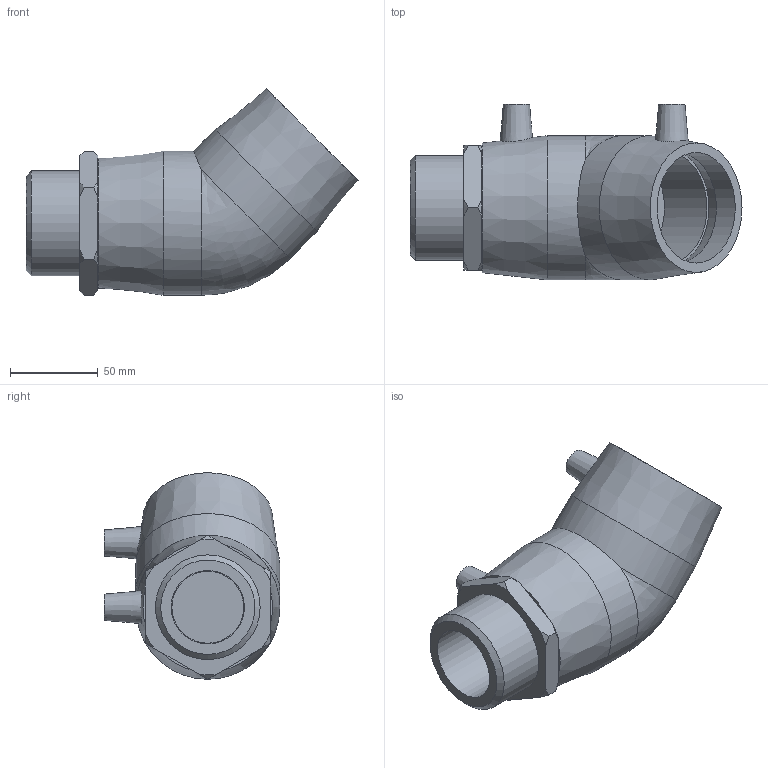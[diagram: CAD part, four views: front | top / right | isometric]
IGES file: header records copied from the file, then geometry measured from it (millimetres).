
Global section: file name: 492604063020.ipt; native system: Autodesk Inventor 2015; preprocessor: unknown; author: KIM; date: 20200202.122430; units: millimetre
Bounding box: 189 x 100 x 117.59 mm (x, y, z)
Volume: 501292.4 mm3; surface area: 88099.2 mm2
Topology: 1 solids, 2 shells, 59 faces, 142 edges, 97 vertices
Faces by surface type: plane 24, cone 17, revolution 10, cylinder 7, bspline 1
Full cylindrical faces by diameter (mm): 4 x2, 59.614 x1, 63 x2, 82 x2
